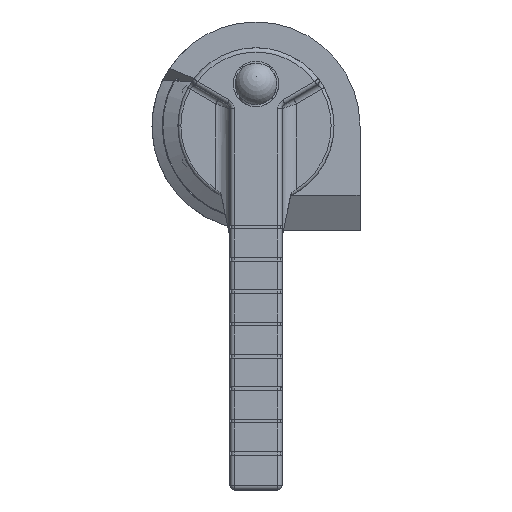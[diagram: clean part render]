
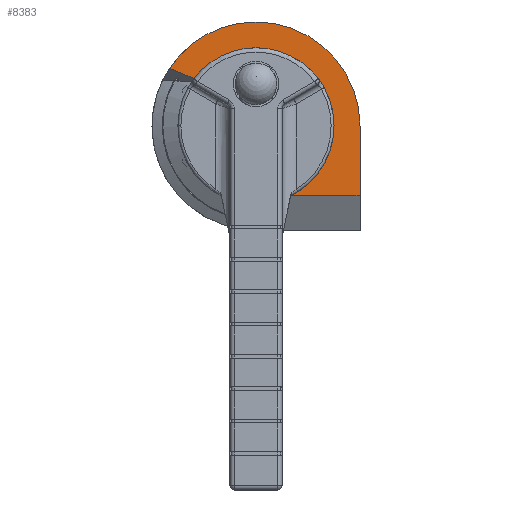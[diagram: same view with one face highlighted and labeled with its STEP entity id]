
A CAD part, top view. The second image highlights one B-rep face of the part: STEP entity #8383.
In plain terms, the highlighted planar face has unit normal (0, 0, 1) as drawn and (0, 1, 0) by its records, which use the part's own axes.
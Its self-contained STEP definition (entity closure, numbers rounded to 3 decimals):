
#914 = CARTESIAN_POINT ( 'NONE',  ( 0., 15., 0. ) ) ;
#1553 = EDGE_CURVE ( 'NONE', #19950, #28990, #16007, .T. ) ;
#1799 = LINE ( 'NONE', #36778, #21435 ) ;
#1891 = AXIS2_PLACEMENT_3D ( 'NONE', #12914, #27505, #9280 ) ;
#2634 = VERTEX_POINT ( 'NONE', #8801 ) ;
#2795 = DIRECTION ( 'NONE',  ( 0., 0., 1. ) ) ;
#3134 = CIRCLE ( 'NONE', #1891, 36. ) ;
#4558 = VERTEX_POINT ( 'NONE', #18247 ) ;
#4745 = DIRECTION ( 'NONE',  ( 1., 0., 0. ) ) ;
#5748 = VERTEX_POINT ( 'NONE', #36240 ) ;
#5836 = ORIENTED_EDGE ( 'NONE', *, *, #1553, .F. ) ;
#6149 = AXIS2_PLACEMENT_3D ( 'NONE', #15582, #28146, #4745 ) ;
#6384 = EDGE_LOOP ( 'NONE', ( #25117, #17450, #30186, #23746, #5836, #34264, #36113 ) ) ;
#8383 = ADVANCED_FACE ( 'NONE', ( #27964 ), #21337, .T. ) ;
#8605 = AXIS2_PLACEMENT_3D ( 'NONE', #914, #12640, #18040 ) ;
#8701 = EDGE_CURVE ( 'NONE', #16752, #20439, #26375, .T. ) ;
#8801 = CARTESIAN_POINT ( 'NONE',  ( 0., 15., -36. ) ) ;
#9280 = DIRECTION ( 'NONE',  ( -0.832, 0., -0.555 ) ) ;
#9890 = CARTESIAN_POINT ( 'NONE',  ( 0., 15., 0. ) ) ;
#12640 = DIRECTION ( 'NONE',  ( 0., 1., 0. ) ) ;
#12745 = CARTESIAN_POINT ( 'NONE',  ( 36., 15., 24. ) ) ;
#12914 = CARTESIAN_POINT ( 'NONE',  ( 0., 15., 0. ) ) ;
#12959 = DIRECTION ( 'NONE',  ( 0., 0., -1. ) ) ;
#13489 = DIRECTION ( 'NONE',  ( -1., 0., 0. ) ) ;
#15190 = CARTESIAN_POINT ( 'NONE',  ( 12.369, 15., 24. ) ) ;
#15582 = CARTESIAN_POINT ( 'NONE',  ( 0., 15., 0. ) ) ;
#16007 = LINE ( 'NONE', #12745, #34172 ) ;
#16752 = VERTEX_POINT ( 'NONE', #29921 ) ;
#17450 = ORIENTED_EDGE ( 'NONE', *, *, #32612, .F. ) ;
#17657 = DIRECTION ( 'NONE',  ( 0., -1., 0. ) ) ;
#18040 = DIRECTION ( 'NONE',  ( 0.458, 0., 0.889 ) ) ;
#18247 = CARTESIAN_POINT ( 'NONE',  ( -29.94, 15., -19.99 ) ) ;
#19015 = CIRCLE ( 'NONE', #36203, 36. ) ;
#19950 = VERTEX_POINT ( 'NONE', #36204 ) ;
#20439 = VERTEX_POINT ( 'NONE', #31411 ) ;
#20653 = CARTESIAN_POINT ( 'NONE',  ( 36., 15., 0. ) ) ;
#20924 = CARTESIAN_POINT ( 'NONE',  ( 0., 15., 0. ) ) ;
#21337 = PLANE ( 'NONE',  #6149 ) ;
#21435 = VECTOR ( 'NONE', #25049, 1000. ) ;
#21618 = DIRECTION ( 'NONE',  ( 0., 1., 0. ) ) ;
#23746 = ORIENTED_EDGE ( 'NONE', *, *, #33331, .F. ) ;
#25049 = DIRECTION ( 'NONE',  ( -0.924, 0., -0.383 ) ) ;
#25117 = ORIENTED_EDGE ( 'NONE', *, *, #30381, .F. ) ;
#25159 = CIRCLE ( 'NONE', #8605, 27. ) ;
#26375 = CIRCLE ( 'NONE', #28827, 27. ) ;
#27199 = EDGE_CURVE ( 'NONE', #5748, #19950, #37775, .T. ) ;
#27505 = DIRECTION ( 'NONE',  ( 0., -1., 0. ) ) ;
#27964 = FACE_OUTER_BOUND ( 'NONE', #6384, .T. ) ;
#28146 = DIRECTION ( 'NONE',  ( 0., 1., 0. ) ) ;
#28827 = AXIS2_PLACEMENT_3D ( 'NONE', #9890, #21618, #12959 ) ;
#28990 = VERTEX_POINT ( 'NONE', #15190 ) ;
#29170 = DIRECTION ( 'NONE',  ( 0., 0., -1. ) ) ;
#29921 = CARTESIAN_POINT ( 'NONE',  ( 0., 15., -27. ) ) ;
#30186 = ORIENTED_EDGE ( 'NONE', *, *, #8701, .F. ) ;
#30381 = EDGE_CURVE ( 'NONE', #4558, #2634, #3134, .T. ) ;
#31411 = CARTESIAN_POINT ( 'NONE',  ( -21.408, 15., -16.453 ) ) ;
#32612 = EDGE_CURVE ( 'NONE', #20439, #4558, #1799, .T. ) ;
#33027 = EDGE_CURVE ( 'NONE', #2634, #5748, #19015, .T. ) ;
#33331 = EDGE_CURVE ( 'NONE', #28990, #16752, #25159, .T. ) ;
#34172 = VECTOR ( 'NONE', #13489, 1000. ) ;
#34264 = ORIENTED_EDGE ( 'NONE', *, *, #27199, .F. ) ;
#36113 = ORIENTED_EDGE ( 'NONE', *, *, #33027, .F. ) ;
#36203 = AXIS2_PLACEMENT_3D ( 'NONE', #20924, #17657, #29170 ) ;
#36204 = CARTESIAN_POINT ( 'NONE',  ( 36., 15., 24. ) ) ;
#36240 = CARTESIAN_POINT ( 'NONE',  ( 36., 15., 0. ) ) ;
#36778 = CARTESIAN_POINT ( 'NONE',  ( -21.408, 15., -16.453 ) ) ;
#37775 = LINE ( 'NONE', #20653, #38009 ) ;
#38009 = VECTOR ( 'NONE', #2795, 1000. ) ;
